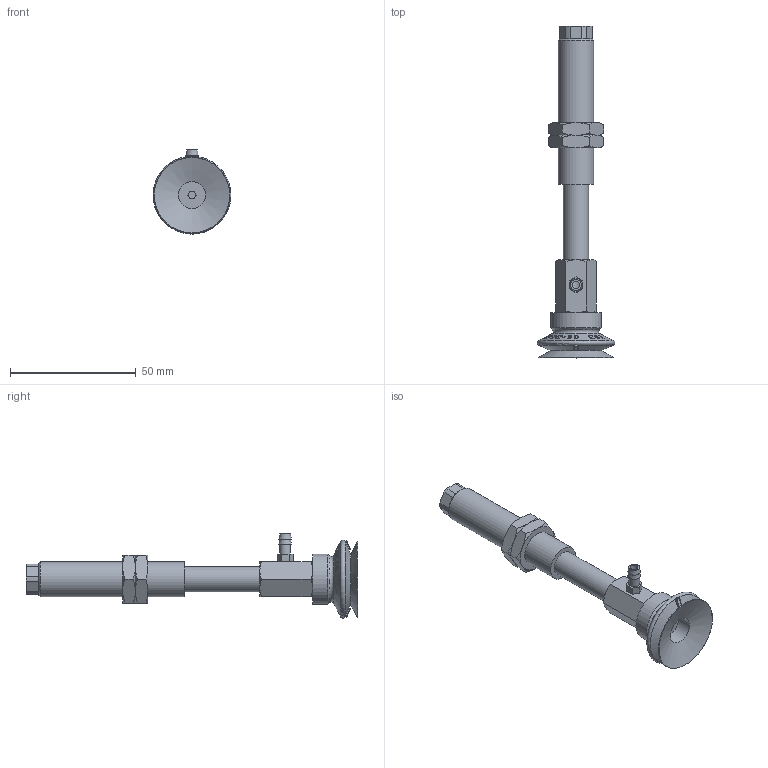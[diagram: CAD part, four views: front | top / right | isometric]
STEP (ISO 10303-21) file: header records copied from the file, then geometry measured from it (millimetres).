
FILE_DESCRIPTION(('STEP AP214'),'1');
FILE_NAME('-T.stp','2026-01-21T06:02:56',(' '),(' '),'Spatial InterOp 3D',' ',' ');
FILE_SCHEMA(('AUTOMOTIVE_DESIGN { 1 0 10303 214 1 1 1 1 }'));
Length unit declared in the file: millimetre
Products named in the file (8): BNABPJYS-30-30-※-T; T; BPJG-30-※; Adapter-30-NAPJ; CONNECTOR_S-30-30; NUT-NAPJ-30-30-s; NAPJYS-30-30-FBODY; NAPJYS-30-30-MBODY
Assembly tree (8 placements, depth 2):
  BNABPJYS-30-30-※-T
    T
    BPJG-30-※
    Adapter-30-NAPJ
    CONNECTOR_S-30-30
    NUT-NAPJ-30-30-s  x2
    NAPJYS-30-30-FBODY
    NAPJYS-30-30-MBODY
Bounding box: 30.99 x 132 x 33.5 mm (x, y, z)
Volume: 22471.4 mm3; surface area: 16489.9 mm2
Topology: 8 solids, 8 shells, 800 faces, 2202 edges, 1445 vertices
Faces by surface type: plane 687, cone 73, cylinder 33, torus 7
Full cylindrical faces by diameter (mm): 3 x3, 4.134 x2, 4.3 x1, 4.917 x1, 5 x2, 5.8 x1, 6 x1, 10 x2, 10.8 x1, 11 x1, 13.188 x2, 14 x1, 20 x1
Entity records: 31891 total; most frequent: CARTESIAN_POINT 7859, ORIENTED_EDGE 4218, DIRECTION 2715, EDGE_CURVE 2109, VERTEX_POINT 1412, B_SPLINE_CURVE_WITH_KNOTS 1083, LINE 909, VECTOR 909
